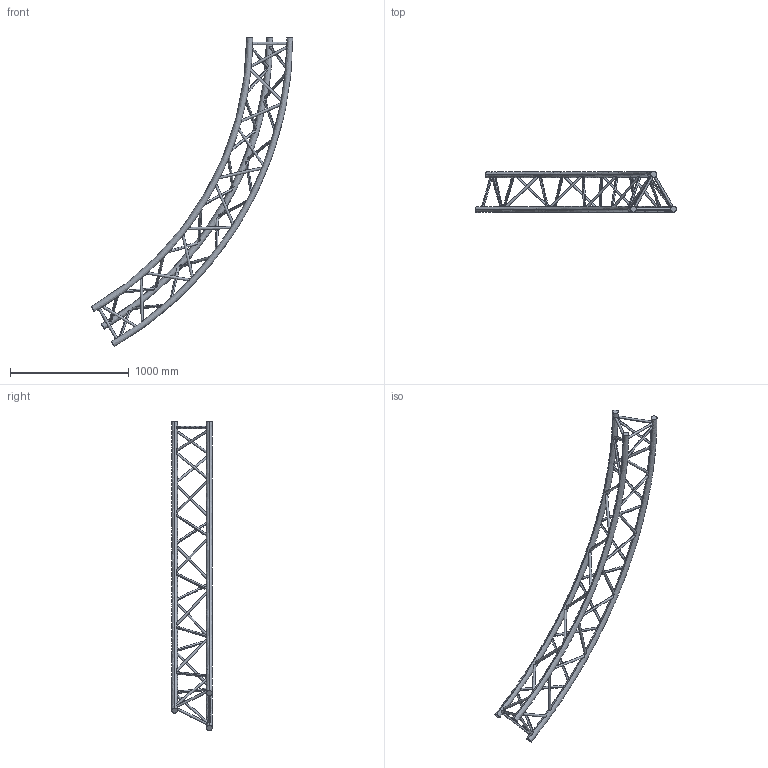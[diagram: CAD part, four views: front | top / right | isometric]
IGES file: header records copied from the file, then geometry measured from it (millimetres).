
Start section: SolidWorks IGES file using analytic representation for surfaces
Global section: file name: K:\BIBLIO\asd_biblio\SX390\Cercles\SXC39PH\SXC39600PH\SXC39600PH.IGS; native system: SolidWorks 2009; preprocessor: SolidWorks 2009; author: des3; date: 091021.132737; units: millimetre
Bounding box: 1693.5 x 341.85 x 2598.08 mm (x, y, z)
Surface area: 2217876.6 mm2 (no closed solid volume)
Topology: 0 solids, 0 shells, 90 faces, 6556 edges, 6556 vertices
Faces by surface type: revolution 78, bspline 12
